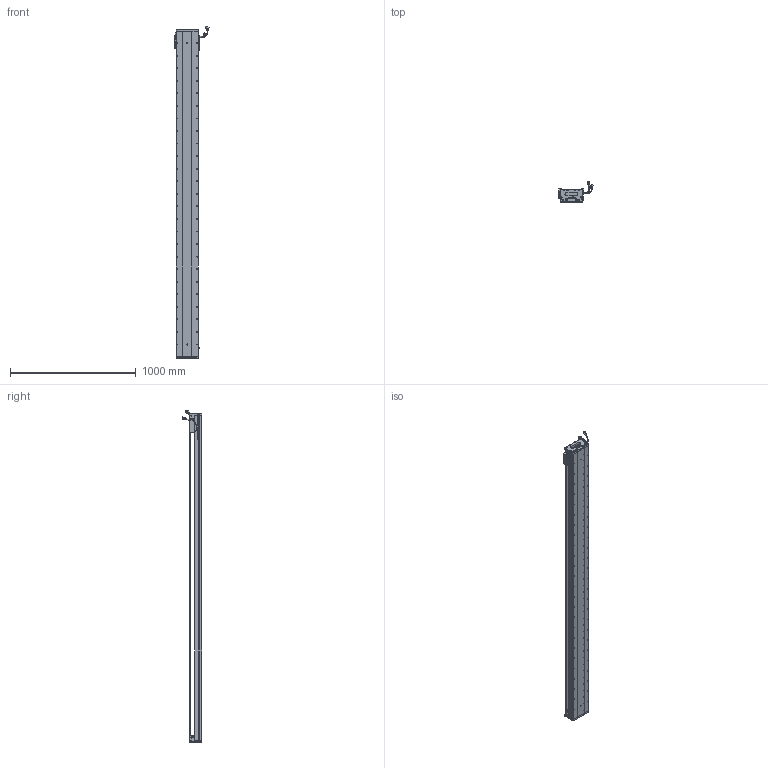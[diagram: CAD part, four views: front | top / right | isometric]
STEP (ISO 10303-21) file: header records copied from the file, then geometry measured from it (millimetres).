
FILE_DESCRIPTION (( 'STEP AP203' ), '1' );
FILE_NAME ('Z1-RY170D-1-L500-B-K.SLDASM_2400.step', '2021-05-17T08:55:33', ( '盈信电脑' ), ( '东莞市道滘镇水果街19号' ), 'SwSTEP 2.0', 'SolidWorks 2016', '' );
FILE_SCHEMA (( 'CONFIG_CONTROL_DESIGN' ));
Length unit declared in the file: millimetre
Products named in the file (36): Z-RY170詩湍奻揤裔; 140蚥薯蝶輸; 080黍杅芛假蚾釱21遴; Z1-RY170臏賑輸(21遴); SEAL; HARNESS-Part-1; SCREW-M1.7-1; 覜茼ん672; RY170直线电机感应器672光电感应片; SCALE-Part-2; SEAL-Part-1; HOLDER0; LABEL-Part-1; COVER; HARNESS; Z-RY170詩湍狟揤裔; LABEL; PSLH080_PSLF2; HARNESS-Part-2; PBU_SHEET; SCREW-M1.6-2; SCREW-M1.6-3; Z1-RY170-L500耀郪菁釱_2400; SCREW-M1.7; SCALE-Part-1; 140雄赽晤鎢ん堤盄; SHIELDPLATE; SCALE; Z-170詩湍傷裔啣; Z1-RY170D-1-L500-B-K.SLDASM_2400; Z1-RY170-L500詩湍145mm遵_2400; 榋妏寠巭燃_暯_M2_2; COVER-Part-1; 170-Z-臏賑輸盄裔(21遴); SCREW-M1.6; SCREW-M1.6-1
Assembly tree (41 placements, depth 4):
  Z1-RY170D-1-L500-B-K.SLDASM_2400
    Z1-RY170-L500耀郪菁釱_2400
    RY170直线电机感应器672光电感应片
    Z1-RY170臏賑輸(21遴)
    覜茼ん672  x3
    PSLH080_PSLF2
      SCALE
        SCALE-Part-1
        SCALE-Part-2
      HARNESS
        HARNESS-Part-1
        HARNESS-Part-2
      LABEL
        LABEL-Part-1
      COVER
        COVER-Part-1
      SEAL
        SEAL-Part-1
      榋妏寠巭燃_暯_M2_2
      SHIELDPLATE
      SCREW-M1.7
      SCREW-M1.7-1
      PBU_SHEET
      SCREW-M1.6
      SCREW-M1.6-1
      SCREW-M1.6-2
      SCREW-M1.6-3
      HOLDER0
    080黍杅芛假蚾釱21遴
    Z1-RY170-L500詩湍145mm遵_2400
    Z-170詩湍傷裔啣  x2
    Z-RY170詩湍奻揤裔  x2
    Z-RY170詩湍狟揤裔  x2
    140蚥薯蝶輸  x2
    170-Z-臏賑輸盄裔(21遴)
    140雄赽晤鎢ん堤盄
Bounding box: 275.29 x 158.11 x 2643.72 mm (x, y, z)
Volume: 12637409.4 mm3; surface area: 3159205.1 mm2
Topology: 36 solids, 36 shells, 3942 faces, 10937 edges, 6831 vertices
Faces by surface type: cylinder 1980, plane 1288, cone 552, torus 69, bspline 53
Entity records: 123957 total; most frequent: CARTESIAN_POINT 34824, ORIENTED_EDGE 18342, DIRECTION 17043, EDGE_CURVE 9171, AXIS2_PLACEMENT_3D 6264, VERTEX_POINT 5949, VECTOR 4515, LINE 4515
